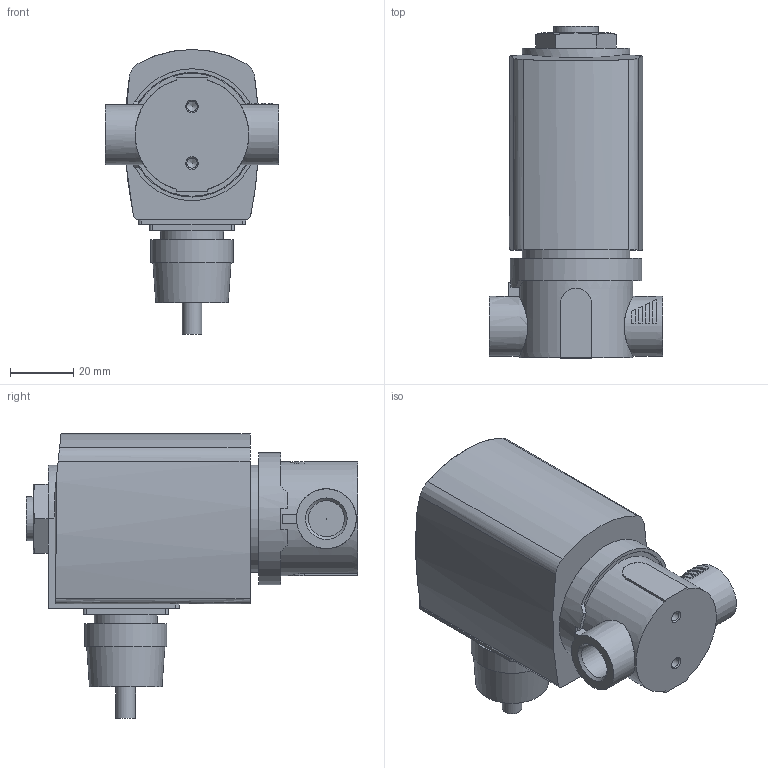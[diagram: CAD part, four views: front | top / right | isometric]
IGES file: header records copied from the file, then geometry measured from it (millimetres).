
Start section: Data from Parasolid IGES Translator 26.0.171, Copyright(c) 2006 Siemens PLM Software. All Rights Reserved.
Global section: file name: 6240-385823-2_2-way_solenoid_valve__pilot-controlled.igs; native system: By Siemens PLM Incorporated; preprocessor: XPlus GENERIC/IGES 26.0.171; author: Noname; organization: Noname; date: 20240510.115226; units: millimetre
Bounding box: 55 x 105.2 x 90.3 mm (x, y, z)
Surface area: 28909.7 mm2 (no closed solid volume)
Topology: 0 solids, 0 shells, 123 faces, 598 edges, 576 vertices
Faces by surface type: extrusion 70, revolution 53
